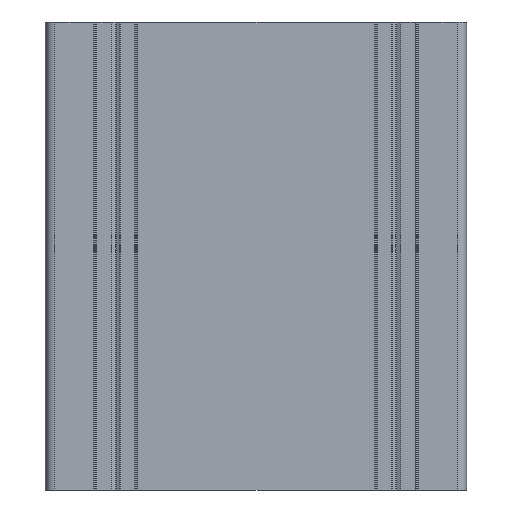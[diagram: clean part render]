
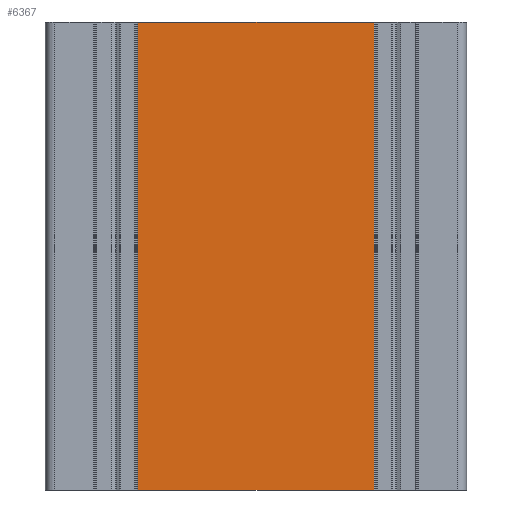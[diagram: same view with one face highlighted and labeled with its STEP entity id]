
A CAD part, left-side view. The second image highlights one B-rep face of the part: STEP entity #6367.
In plain terms, the highlighted planar face has unit normal (-1, 0, 0).
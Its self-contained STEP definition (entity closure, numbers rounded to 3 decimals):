
#680=PLANE('',#6770);
#877=FACE_OUTER_BOUND('',#1167,.T.);
#1167=EDGE_LOOP('',(#4771,#4772,#4773,#4774));
#1561=LINE('',#9847,#2149);
#1562=LINE('',#9850,#2150);
#1563=LINE('',#9852,#2151);
#1564=LINE('',#9853,#2152);
#2149=VECTOR('',#7840,10.);
#2150=VECTOR('',#7843,10.);
#2151=VECTOR('',#7844,10.);
#2152=VECTOR('',#7845,10.);
#3151=VERTEX_POINT('',#9843);
#3152=VERTEX_POINT('',#9845);
#3153=VERTEX_POINT('',#9849);
#3154=VERTEX_POINT('',#9851);
#3817=EDGE_CURVE('',#3151,#3152,#1561,.T.);
#3818=EDGE_CURVE('',#3153,#3151,#1562,.T.);
#3819=EDGE_CURVE('',#3154,#3152,#1563,.T.);
#3820=EDGE_CURVE('',#3153,#3154,#1564,.T.);
#4771=ORIENTED_EDGE('',*,*,#3818,.T.);
#4772=ORIENTED_EDGE('',*,*,#3817,.T.);
#4773=ORIENTED_EDGE('',*,*,#3819,.F.);
#4774=ORIENTED_EDGE('',*,*,#3820,.F.);
#6367=ADVANCED_FACE('',(#877),#680,.T.);
#6770=AXIS2_PLACEMENT_3D('',#9848,#7841,#7842);
#7840=DIRECTION('',(0.,0.,1.));
#7841=DIRECTION('center_axis',(-1.,0.,0.));
#7842=DIRECTION('ref_axis',(0.,-1.,0.));
#7843=DIRECTION('',(0.,-1.,0.));
#7844=DIRECTION('',(0.,-1.,0.));
#7845=DIRECTION('',(0.,0.,1.));
#9843=CARTESIAN_POINT('',(-30.,0.2,0.));
#9845=CARTESIAN_POINT('',(-30.,0.2,100.));
#9847=CARTESIAN_POINT('',(-30.,0.2,0.));
#9848=CARTESIAN_POINT('Origin',(-30.,50.7,0.));
#9849=CARTESIAN_POINT('',(-30.,50.7,0.));
#9850=CARTESIAN_POINT('',(-30.,50.7,0.));
#9851=CARTESIAN_POINT('',(-30.,50.7,100.));
#9852=CARTESIAN_POINT('',(-30.,50.7,100.));
#9853=CARTESIAN_POINT('',(-30.,50.7,0.));
